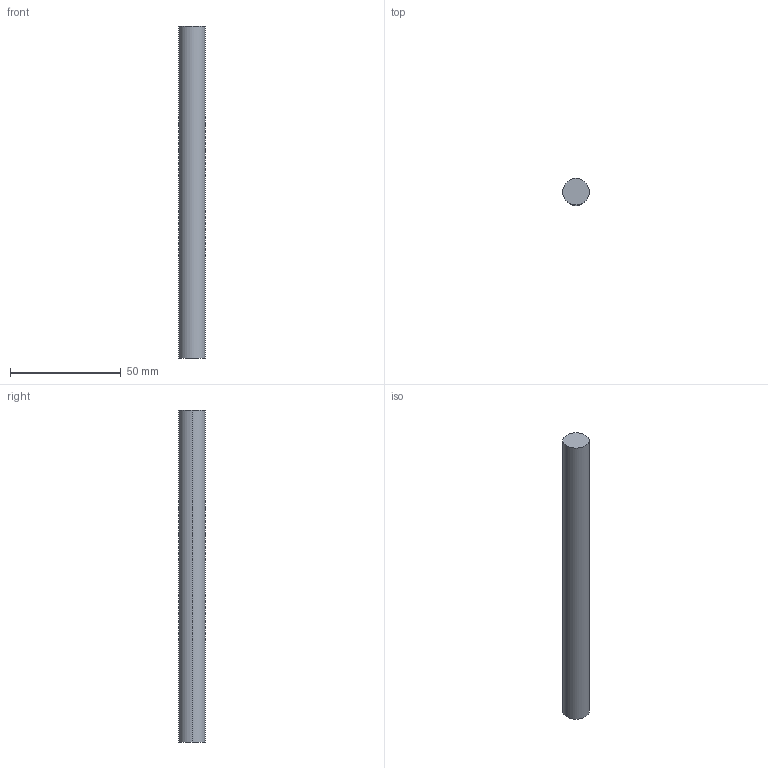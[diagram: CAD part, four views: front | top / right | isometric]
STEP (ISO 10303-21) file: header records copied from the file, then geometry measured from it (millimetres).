
FILE_DESCRIPTION (( 'STEP AP203' ), '1' );
FILE_NAME ('084.802.044.STEP', '2013-02-01T09:17:47', ( 'Alusic' ), ( 'Alusic' ), 'SwSTEP 2.0', 'SolidWorks 2011', '' );
FILE_SCHEMA (( 'CONFIG_CONTROL_DESIGN' ));
Length unit declared in the file: millimetre
Products named in the file (1): 084.802.044
Bounding box: 12 x 12 x 150 mm (x, y, z)
Volume: 16964.6 mm3; surface area: 5881.1 mm2
Topology: 1 solids, 1 shells, 4 faces, 6 edges, 4 vertices
Faces by surface type: cylinder 2, plane 2
Entity records: 171 total; most frequent: DIRECTION 20, CARTESIAN_POINT 15, ORIENTED_EDGE 12, AXIS2_PLACEMENT_3D 9, PERSON_AND_ORGANIZATION 8, EDGE_CURVE 6, LOCAL_TIME 5, COORDINATED_UNIVERSAL_TIME_OFFSET 5
